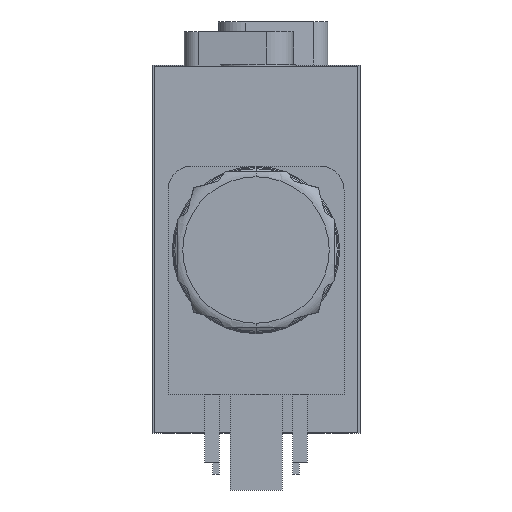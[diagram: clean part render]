
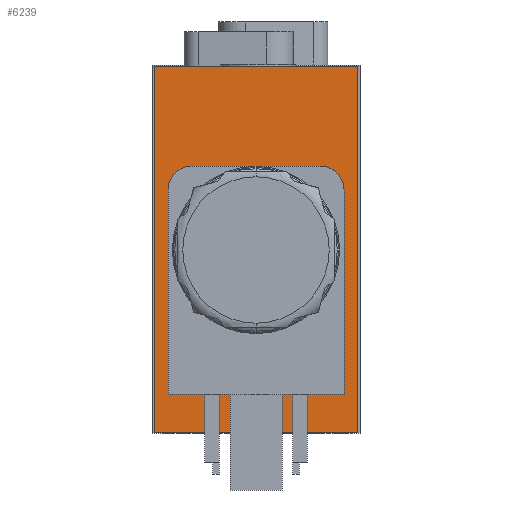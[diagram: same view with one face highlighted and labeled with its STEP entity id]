
A CAD part, front view. The second image highlights one B-rep face of the part: STEP entity #6239.
In plain terms, the highlighted planar face has unit normal (0, -1, 0).
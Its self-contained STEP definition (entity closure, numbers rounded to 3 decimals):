
#1909=DIRECTION('',(-1.,0.,0.));
#1910=VECTOR('',#1909,25.4);
#1911=CARTESIAN_POINT('',(12.7,-53.8,-45.9));
#1912=LINE('',#1911,#1910);
#1913=DIRECTION('',(0.,0.,1.));
#1914=VECTOR('',#1913,45.8);
#1915=CARTESIAN_POINT('',(-12.7,-53.8,-45.9));
#1916=LINE('',#1915,#1914);
#1917=DIRECTION('',(1.,0.,0.));
#1918=VECTOR('',#1917,25.4);
#1919=CARTESIAN_POINT('',(-12.7,-53.8,-0.1));
#1920=LINE('',#1919,#1918);
#1921=DIRECTION('',(0.,0.,-1.));
#1922=VECTOR('',#1921,45.8);
#1923=CARTESIAN_POINT('',(12.7,-53.8,-0.1));
#1924=LINE('',#1923,#1922);
#1925=DIRECTION('',(-1.,0.,0.));
#1926=VECTOR('',#1925,22.);
#1927=CARTESIAN_POINT('',(11.,-53.8,-41.1));
#1928=LINE('',#1927,#1926);
#1929=DIRECTION('',(0.,0.,-1.));
#1930=VECTOR('',#1929,25.5);
#1931=CARTESIAN_POINT('',(11.,-53.8,-15.6));
#1932=LINE('',#1931,#1930);
#1933=CARTESIAN_POINT('',(8.,-53.8,-15.6));
#1934=DIRECTION('',(0.,1.,0.));
#1935=DIRECTION('',(0.,0.,1.));
#1936=AXIS2_PLACEMENT_3D('',#1933,#1934,#1935);
#1938=DIRECTION('',(1.,0.,0.));
#1939=VECTOR('',#1938,16.);
#1940=CARTESIAN_POINT('',(-8.,-53.8,-12.6));
#1941=LINE('',#1940,#1939);
#1942=CARTESIAN_POINT('',(-8.,-53.8,-15.6));
#1943=DIRECTION('',(0.,1.,0.));
#1944=DIRECTION('',(-1.,0.,0.));
#1945=AXIS2_PLACEMENT_3D('',#1942,#1943,#1944);
#1947=DIRECTION('',(0.,0.,1.));
#1948=VECTOR('',#1947,25.5);
#1949=CARTESIAN_POINT('',(-11.,-53.8,-41.1));
#1950=LINE('',#1949,#1948);
#3442=CARTESIAN_POINT('',(12.7,-53.8,-45.9));
#3443=CARTESIAN_POINT('',(-12.7,-53.8,-45.9));
#3444=VERTEX_POINT('',#3442);
#3445=VERTEX_POINT('',#3443);
#3446=CARTESIAN_POINT('',(-12.7,-53.8,-0.1));
#3447=VERTEX_POINT('',#3446);
#3448=CARTESIAN_POINT('',(12.7,-53.8,-0.1));
#3449=VERTEX_POINT('',#3448);
#3470=CARTESIAN_POINT('',(11.,-53.8,-41.1));
#3471=CARTESIAN_POINT('',(-11.,-53.8,-41.1));
#3472=VERTEX_POINT('',#3470);
#3473=VERTEX_POINT('',#3471);
#3474=CARTESIAN_POINT('',(-11.,-53.8,-15.6));
#3475=VERTEX_POINT('',#3474);
#3476=CARTESIAN_POINT('',(-8.,-53.8,-12.6));
#3477=VERTEX_POINT('',#3476);
#3478=CARTESIAN_POINT('',(8.,-53.8,-12.6));
#3479=VERTEX_POINT('',#3478);
#3480=CARTESIAN_POINT('',(11.,-53.8,-15.6));
#3481=VERTEX_POINT('',#3480);
#6214=CARTESIAN_POINT('',(0.,-53.8,0.));
#6215=DIRECTION('',(0.,1.,0.));
#6216=DIRECTION('',(1.,0.,0.));
#6217=AXIS2_PLACEMENT_3D('',#6214,#6215,#6216);
#6218=PLANE('',#6217);
#6219=ORIENTED_EDGE('',*,*,#6156,.T.);
#6220=ORIENTED_EDGE('',*,*,#6171,.T.);
#6221=ORIENTED_EDGE('',*,*,#6185,.T.);
#6222=ORIENTED_EDGE('',*,*,#6208,.T.);
#6223=EDGE_LOOP('',(#6219,#6220,#6221,#6222));
#6224=FACE_OUTER_BOUND('',#6223,.F.);
#6226=ORIENTED_EDGE('',*,*,#6225,.F.);
#6228=ORIENTED_EDGE('',*,*,#6227,.F.);
#6230=ORIENTED_EDGE('',*,*,#6229,.F.);
#6232=ORIENTED_EDGE('',*,*,#6231,.F.);
#6234=ORIENTED_EDGE('',*,*,#6233,.F.);
#6236=ORIENTED_EDGE('',*,*,#6235,.F.);
#6237=EDGE_LOOP('',(#6226,#6228,#6230,#6232,#6234,#6236));
#6238=FACE_BOUND('',#6237,.F.);
#6239=ADVANCED_FACE('',(#6224,#6238),#6218,.F.);
#1937=CIRCLE('',#1936,3.);
#1946=CIRCLE('',#1945,3.);
#6156=EDGE_CURVE('',#3444,#3445,#1912,.T.);
#6171=EDGE_CURVE('',#3445,#3447,#1916,.T.);
#6185=EDGE_CURVE('',#3447,#3449,#1920,.T.);
#6208=EDGE_CURVE('',#3449,#3444,#1924,.T.);
#6225=EDGE_CURVE('',#3472,#3473,#1928,.T.);
#6227=EDGE_CURVE('',#3481,#3472,#1932,.T.);
#6229=EDGE_CURVE('',#3479,#3481,#1937,.T.);
#6231=EDGE_CURVE('',#3477,#3479,#1941,.T.);
#6233=EDGE_CURVE('',#3475,#3477,#1946,.T.);
#6235=EDGE_CURVE('',#3473,#3475,#1950,.T.);
